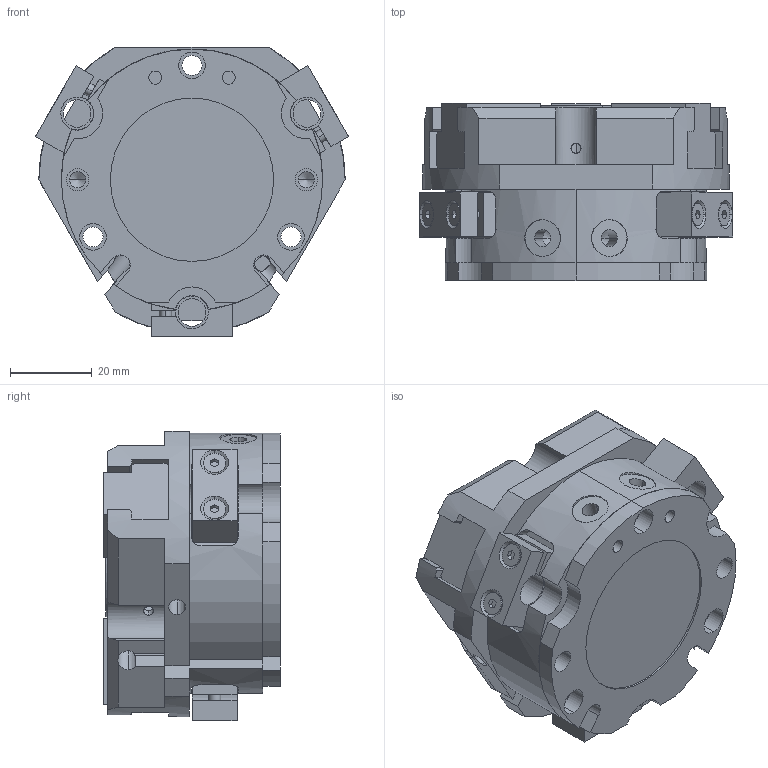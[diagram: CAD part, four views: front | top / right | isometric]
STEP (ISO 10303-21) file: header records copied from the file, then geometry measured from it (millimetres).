
FILE_DESCRIPTION (( 'STEP AP214' ), '1' );
FILE_NAME ('FCT 64A-1.STEP', '2021-09-16T02:07:50', ( 'DEEP' ), ( 'Microsoft' ), 'SwSTEP 2.0', 'SolidWorks 2016', '' );
FILE_SCHEMA (( 'AUTOMOTIVE_DESIGN' ));
Length unit declared in the file: millimetre
Products named in the file (17): FCT 64A-1-006; FCT 64A-1-004; FCT 64A-1-003; FCT 64A-1; FCT 64A-1-005; FCT 64A-1-002; FCT 64A-1-001
Assembly tree (10 placements, depth 2):
  FCT 64A-1-006
  FCT 64A-1-004
  FCT 64A-1-004
  FCT 64A-1-004
  FCT 64A-1-003
Bounding box: 76.68 x 43.3 x 71 mm (x, y, z)
Volume: 133050.1 mm3; surface area: 45342.8 mm2
Topology: 10 solids, 10 shells, 613 faces, 1569 edges, 996 vertices
Faces by surface type: plane 287, cylinder 218, cone 108
Entity records: 14593 total; most frequent: CARTESIAN_POINT 3084, DIRECTION 2371, ORIENTED_EDGE 2238, EDGE_CURVE 1119, AXIS2_PLACEMENT_3D 875, VERTEX_POINT 732, VECTOR 621, LINE 621
